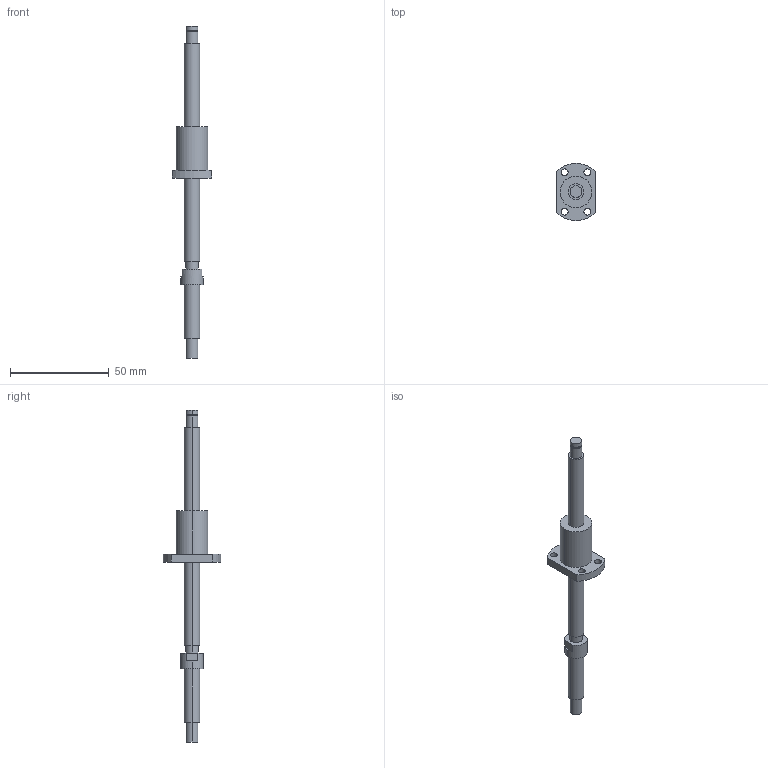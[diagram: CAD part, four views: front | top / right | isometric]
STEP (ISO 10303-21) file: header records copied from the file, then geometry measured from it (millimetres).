
FILE_DESCRIPTION((''),'2;1');
FILE_NAME('R8-2T3-FSI-110-168','2008-03-28T',('mahdi'),(''),'PRO/ENGINEER BY PARAMETRIC TECHNOLOGY CORPORATION, 2005070','PRO/ENGINEER BY PARAMETRIC TECHNOLOGY CORPORATION, 2005070','');
FILE_SCHEMA(('CONFIG_CONTROL_DESIGN'));
Length unit declared in the file: millimetre
Products named in the file (1): R8-2T3-FSI-110-168
Bounding box: 20 x 28.9 x 168 mm (x, y, z)
Volume: 13444.6 mm3; surface area: 6272 mm2
Topology: 1 solids, 1 shells, 48 faces, 108 edges, 72 vertices
Faces by surface type: cylinder 30, plane 18
Entity records: 1430 total; most frequent: DIRECTION 268, CARTESIAN_POINT 228, ORIENTED_EDGE 216, AXIS2_PLACEMENT_3D 112, EDGE_CURVE 108, VERTEX_POINT 72, EDGE_LOOP 66, CIRCLE 64
